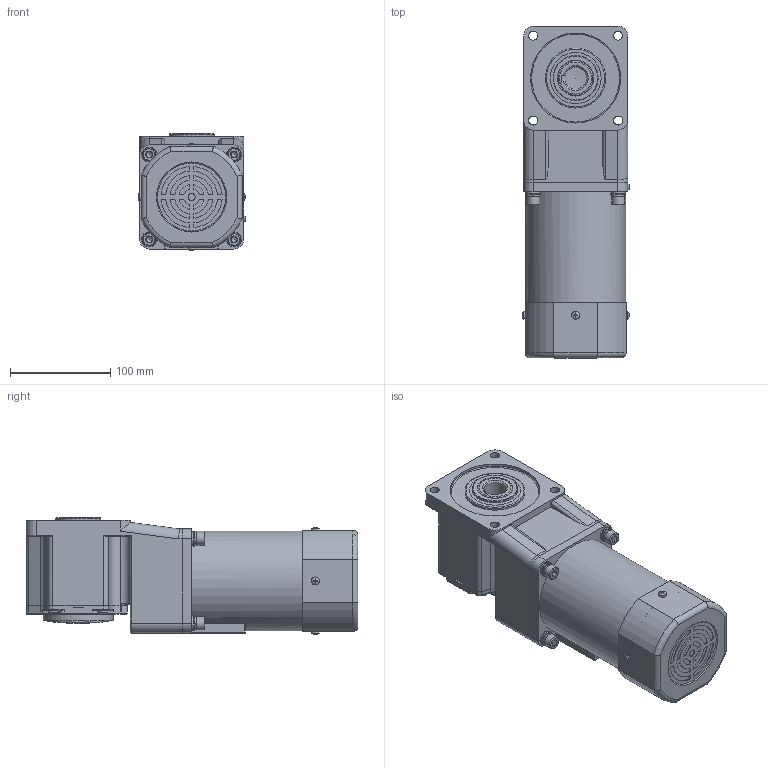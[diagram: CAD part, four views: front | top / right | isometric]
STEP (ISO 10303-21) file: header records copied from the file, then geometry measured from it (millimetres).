
FILE_DESCRIPTION(/* description */ (''),/* implementation_level */ '2;1');
FILE_NAME(/* name */ '100+直角中空-阻尼调速风叶-140W.stp',/* time_stamp */ '2022-09-27T13:07:57+08:00',/* author */ (''),/* organization */ (''),/* preprocessor_version */ 'ST-DEVELOPER v16.7',/* originating_system */ 'SIEMENS PLM Software NX 1899',/* authorisation */ '');
FILE_SCHEMA (('AP203_CONFIGURATION_CONTROLLED_3D_DESIGN_OF_MECHANICAL_PARTS_AND_ASSEMBLIES_MIM_LF { 1 0 10303 403 2 1 2}'));
Length unit declared in the file: millimetre
Products named in the file (1): yf1835C809DDuga9
Bounding box: 107.87 x 331.5 x 117.03 mm (x, y, z)
Volume: 2889135 mm3; surface area: 229802.1 mm2
Topology: 15 solids, 15 shells, 784 faces, 1874 edges, 1175 vertices
Faces by surface type: plane 439, cylinder 228, torus 58, cone 48, sphere 6, bspline 5
Full cylindrical faces by diameter (mm): 3.3 x2, 3.5 x2, 5.6 x1, 6 x8, 6.8 x4, 7 x1, 7.76 x4, 8 x4, 8.4 x4, 9 x8, 9.5 x4, 13 x4, 14 x4, 15 x4, 45 x1, 52 x1, 52.5 x1, 60 x1, 65 x1, 65.5 x1, 70 x1, 77 x1, 90 x1, 98 x2, 100 x1
Entity records: 23559 total; most frequent: CARTESIAN_POINT 4637, DIRECTION 3761, ORIENTED_EDGE 3386, EDGE_CURVE 1693, AXIS2_PLACEMENT_3D 1447, VERTEX_POINT 1120, EDGE_LOOP 985, LINE 867
